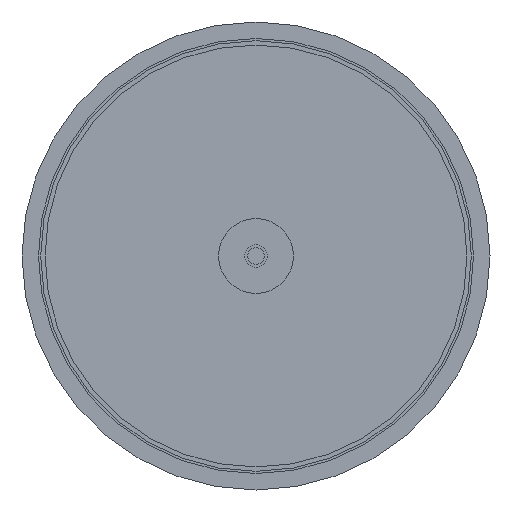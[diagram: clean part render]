
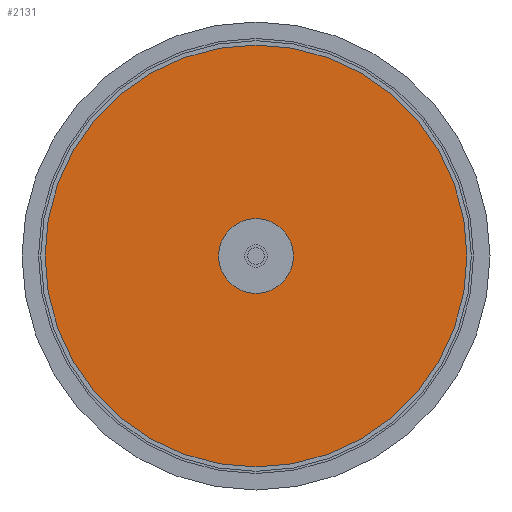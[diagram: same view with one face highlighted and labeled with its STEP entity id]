
A CAD part, front view. The second image highlights one B-rep face of the part: STEP entity #2131.
In plain terms, the highlighted planar face has unit normal (0, -1, 0).
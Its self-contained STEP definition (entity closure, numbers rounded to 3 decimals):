
#86 = CIRCLE ( 'NONE', #1100, 5.25 ) ;
#143 = AXIS2_PLACEMENT_3D ( 'NONE', #1522, #2841, #531 ) ;
#251 = EDGE_CURVE ( 'NONE', #5021, #6878, #1877, .T. ) ;
#314 = EDGE_CURVE ( 'NONE', #4839, #2768, #5130, .T. ) ;
#405 = CARTESIAN_POINT ( 'NONE',  ( 0., 0., -5.25 ) ) ;
#406 = DIRECTION ( 'NONE',  ( 0., 1., 0. ) ) ;
#531 = DIRECTION ( 'NONE',  ( 0., 0., 1. ) ) ;
#916 = DIRECTION ( 'NONE',  ( 0., 0., 1. ) ) ;
#994 = CARTESIAN_POINT ( 'NONE',  ( 0., 0., 5.25 ) ) ;
#1100 = AXIS2_PLACEMENT_3D ( 'NONE', #6154, #406, #916 ) ;
#1122 = DIRECTION ( 'NONE',  ( 0., 1., 0. ) ) ;
#1329 = DIRECTION ( 'NONE',  ( 0., 0., 1. ) ) ;
#1522 = CARTESIAN_POINT ( 'NONE',  ( 0., 0., 0. ) ) ;
#1745 = CARTESIAN_POINT ( 'NONE',  ( 0., 0., 0. ) ) ;
#1877 = CIRCLE ( 'NONE', #3035, 5.25 ) ;
#2131 = ADVANCED_FACE ( 'NONE', ( #4929, #2872 ), #2176, .F. ) ;
#2176 = PLANE ( 'NONE',  #143 ) ;
#2494 = AXIS2_PLACEMENT_3D ( 'NONE', #1745, #1122, #3988 ) ;
#2768 = VERTEX_POINT ( 'NONE', #3849 ) ;
#2841 = DIRECTION ( 'NONE',  ( 0., 1., 0. ) ) ;
#2872 = FACE_BOUND ( 'NONE', #4143, .T. ) ;
#2923 = CIRCLE ( 'NONE', #2494, 115. ) ;
#3035 = AXIS2_PLACEMENT_3D ( 'NONE', #5985, #7124, #4765 ) ;
#3164 = ORIENTED_EDGE ( 'NONE', *, *, #5678, .F. ) ;
#3324 = ORIENTED_EDGE ( 'NONE', *, *, #251, .T. ) ;
#3427 = ORIENTED_EDGE ( 'NONE', *, *, #3801, .T. ) ;
#3801 = EDGE_CURVE ( 'NONE', #6878, #5021, #86, .T. ) ;
#3849 = CARTESIAN_POINT ( 'NONE',  ( 0., 0., 115. ) ) ;
#3865 = CARTESIAN_POINT ( 'NONE',  ( 0., 0., -115. ) ) ;
#3988 = DIRECTION ( 'NONE',  ( 0., 0., 1. ) ) ;
#4143 = EDGE_LOOP ( 'NONE', ( #3427, #3324 ) ) ;
#4737 = DIRECTION ( 'NONE',  ( 0., 1., 0. ) ) ;
#4738 = EDGE_LOOP ( 'NONE', ( #7434, #3164 ) ) ;
#4765 = DIRECTION ( 'NONE',  ( 0., 0., 1. ) ) ;
#4786 = CARTESIAN_POINT ( 'NONE',  ( 0., 0., 0. ) ) ;
#4839 = VERTEX_POINT ( 'NONE', #3865 ) ;
#4929 = FACE_OUTER_BOUND ( 'NONE', #4738, .T. ) ;
#5021 = VERTEX_POINT ( 'NONE', #994 ) ;
#5130 = CIRCLE ( 'NONE', #7385, 115. ) ;
#5678 = EDGE_CURVE ( 'NONE', #2768, #4839, #2923, .T. ) ;
#5985 = CARTESIAN_POINT ( 'NONE',  ( 0., 0., 0. ) ) ;
#6154 = CARTESIAN_POINT ( 'NONE',  ( 0., 0., 0. ) ) ;
#6878 = VERTEX_POINT ( 'NONE', #405 ) ;
#7124 = DIRECTION ( 'NONE',  ( 0., 1., 0. ) ) ;
#7385 = AXIS2_PLACEMENT_3D ( 'NONE', #4786, #4737, #1329 ) ;
#7434 = ORIENTED_EDGE ( 'NONE', *, *, #314, .F. ) ;
